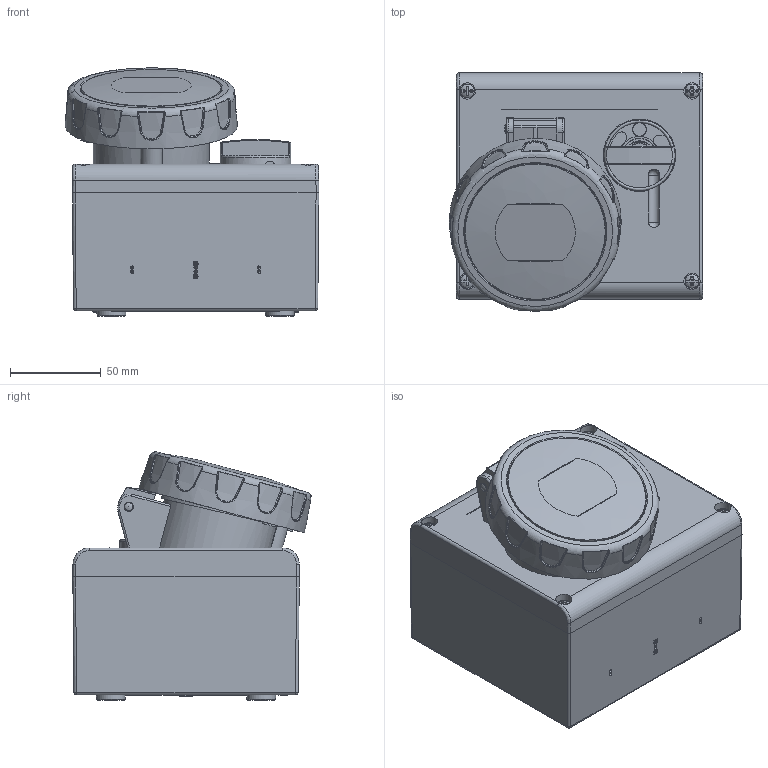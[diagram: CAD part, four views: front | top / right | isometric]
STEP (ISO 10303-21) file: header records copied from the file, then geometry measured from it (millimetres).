
FILE_DESCRIPTION(/* description */ (''),/* implementation_level */ '2;1');
FILE_NAME(/* name */ '4003482.stp',/* time_stamp */ '2021-02-08T08:06:17+01:00',/* author */ (''),/* organization */ (''),/* preprocessor_version */ 'ST-DEVELOPER v16.7',/* originating_system */ 'SIEMENS PLM Software NX 1946',/* authorisation */ '');
FILE_SCHEMA (('AUTOMOTIVE_DESIGN { 1 0 10303 214 3 1 1 1 }'));
Products named in the file (1): BSOM45D0449277wc
Bounding box: 140 x 131.57 x 137.1 mm (x, y, z)
Volume: 311019.8 mm3; surface area: 238745.9 mm2
Topology: 11 solids, 11 shells, 2711 faces, 6975 edges, 4496 vertices
Faces by surface type: plane 1283, extrusion 436, cylinder 397, bspline 300, cone 154, torus 108, sphere 25, revolution 8
Full cylindrical faces by diameter (mm): 1 x3, 1.6 x1, 2.8 x4, 3 x7, 4 x8, 4.3 x2, 4.5 x4, 5 x1, 7.5 x1, 7.6 x4, 8 x3, 9 x4, 13 x1, 16 x1, 16.1 x1, 18.6 x1, 19 x1, 19.9 x1, 21 x1, 39 x1, 53.2 x1, 57.2 x1, 77.2 x1, 86.4 x1
Entity records: 107468 total; most frequent: CARTESIAN_POINT 47137, ORIENTED_EDGE 13366, DIRECTION 10285, EDGE_CURVE 6683, VERTEX_POINT 4404, AXIS2_PLACEMENT_3D 3450, VECTOR 3377, EDGE_LOOP 3153
